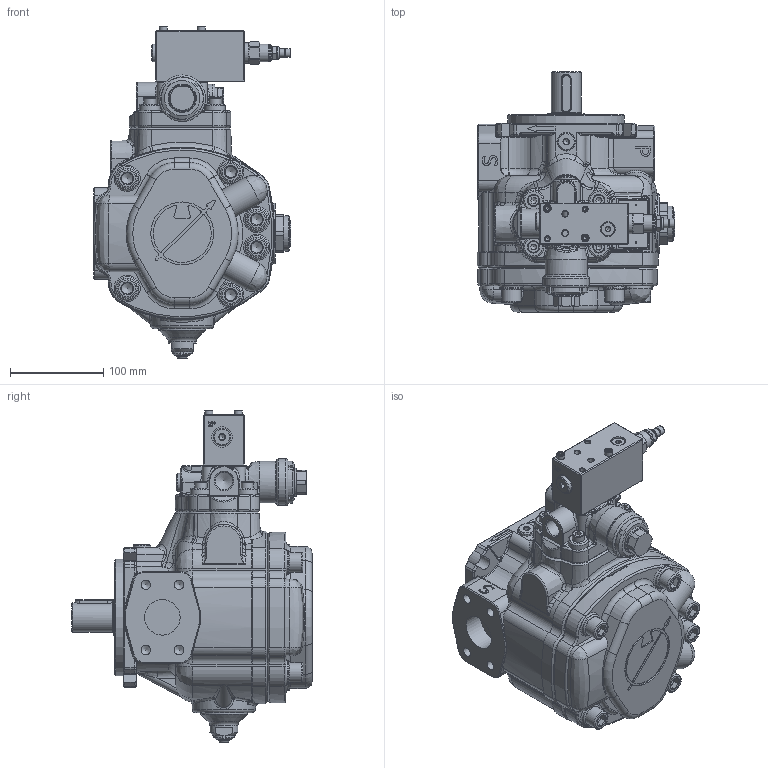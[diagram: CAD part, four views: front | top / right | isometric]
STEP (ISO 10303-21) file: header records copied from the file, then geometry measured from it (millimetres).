
FILE_DESCRIPTION(/* description */ (''),/* implementation_level */ '2;1');
FILE_NAME(/* name */ 'W:\Tecnico\Archivio\Berarma\Dimensioni Pompe\3D Export\Montaggio 3D semplificato\PLP-PHP 2\PHP 2 PCS003.stp',/* time_stamp */ '2018-10-09T16:50:00+02:00',/* author */ ('marcop'),/* organization */ (''),/* preprocessor_version */ 'ST-DEVELOPER v17',/* originating_system */ 'Autodesk Inventor 2018',/* authorisation */ '');
FILE_SCHEMA (('AUTOMOTIVE_DESIGN { 1 0 10303 214 3 1 1 }'));
Products named in the file (1): PLP - PHP 2_Shrinkwrap_1
Bounding box: 212.33 x 257.5 x 356.1 mm (x, y, z)
Volume: 4724227.6 mm3; surface area: 431465.2 mm2
Topology: 2 solids, 2 shells, 2212 faces, 5670 edges, 3535 vertices
Faces by surface type: plane 797, cylinder 520, bspline 429, torus 218, cone 214, sphere 34
Full cylindrical faces by diameter (mm): 0.9 x3, 1.7 x4, 2.5 x3, 4 x1, 4.134 x2, 5.5 x2, 6 x2, 6.5 x3, 7.2 x1, 7.671 x2, 8 x1, 8.376 x4, 8.5 x2, 8.566 x2, 9.347 x2, 9.5 x1, 10 x1, 10.106 x4, 11.445 x1, 12 x4, 13 x4, 13.487 x1, 13.5 x1, 13.767 x2, 14 x3, 14.224 x1, 14.63 x1, 15.5 x1, 16 x2, 17.374 x1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
Entity records: 83623 total; most frequent: CARTESIAN_POINT 30284, ORIENTED_EDGE 11214, DIRECTION 10080, EDGE_CURVE 5607, AXIS2_PLACEMENT_3D 3941, VERTEX_POINT 3535, EDGE_LOOP 2358, STYLED_ITEM 2214
